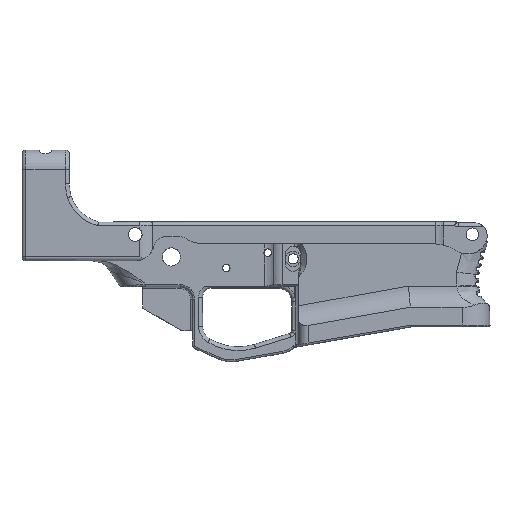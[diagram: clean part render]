
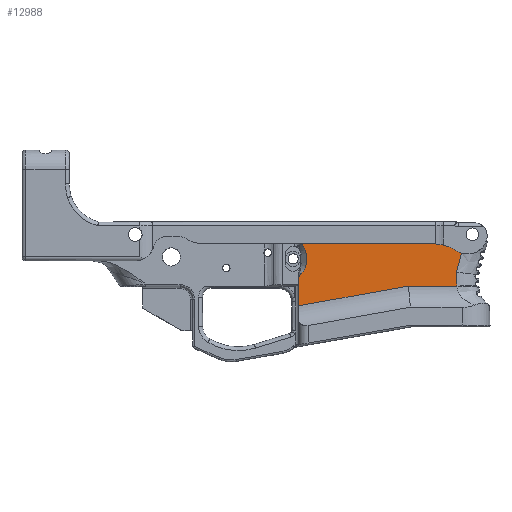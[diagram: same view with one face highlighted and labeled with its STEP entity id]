
A CAD part, front view. The second image highlights one B-rep face of the part: STEP entity #12988.
In plain terms, the highlighted planar face has unit normal (0, -1, 0).
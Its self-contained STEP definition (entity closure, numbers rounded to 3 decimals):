
#486=PLANE('',#14073);
#1259=FACE_OUTER_BOUND('',#2017,.T.);
#2017=EDGE_LOOP('',(#11764,#11765,#11766,#11767,#11768,#11769,#11770,#11771,
#11772,#11773,#11774,#11775,#11776,#11777));
#2245=B_SPLINE_CURVE_WITH_KNOTS('',3,(#22119,#22120,#22121,#22122,#22123,
#22124,#22125,#22126),.UNSPECIFIED.,.F.,.F.,(4,2,2,4),(0.,0.183,
0.306,0.416),.UNSPECIFIED.);
#2653=B_SPLINE_CURVE_WITH_KNOTS('',3,(#35249,#35250,#35251,#35252),
 .UNSPECIFIED.,.F.,.F.,(4,4),(0.925,1.949),
 .UNSPECIFIED.);
#2673=B_SPLINE_CURVE_WITH_KNOTS('',3,(#35752,#35753,#35754,#35755,#35756,
#35757,#35758,#35759,#35760,#35761,#35762,#35763,#35764,#35765,#35766,#35767,
#35768,#35769,#35770,#35771,#35772,#35773),.UNSPECIFIED.,.F.,.F.,(4,3,3,
3,3,3,3,4),(0.235,0.416,0.597,0.657,
0.838,1.02,1.2,1.314),
 .UNSPECIFIED.);
#2794=CIRCLE('',#13302,6.7);
#2795=CIRCLE('',#13305,6.7);
#3091=CIRCLE('',#14000,8.);
#3092=CIRCLE('',#14003,8.);
#3486=LINE('',#22367,#4305);
#3492=LINE('',#22397,#4311);
#3899=LINE('',#35215,#4718);
#3901=LINE('',#35306,#4720);
#3902=LINE('',#35309,#4721);
#3906=LINE('',#35340,#4725);
#3945=LINE('',#35775,#4764);
#4305=VECTOR('',#14986,10.);
#4311=VECTOR('',#15000,10.);
#4718=VECTOR('',#16803,10.);
#4720=VECTOR('',#16811,10.);
#4721=VECTOR('',#16814,13.);
#4725=VECTOR('',#16828,13.);
#4764=VECTOR('',#16993,10.);
#5261=VERTEX_POINT('',#22112);
#5262=VERTEX_POINT('',#22118);
#5281=VERTEX_POINT('',#22362);
#5282=VERTEX_POINT('',#22366);
#5289=VERTEX_POINT('',#22391);
#5290=VERTEX_POINT('',#22395);
#5891=VERTEX_POINT('',#31458);
#5973=VERTEX_POINT('',#35203);
#5974=VERTEX_POINT('',#35204);
#5975=VERTEX_POINT('',#35214);
#5976=VERTEX_POINT('',#35218);
#5977=VERTEX_POINT('',#35248);
#5978=VERTEX_POINT('',#35308);
#5984=VERTEX_POINT('',#35339);
#6664=EDGE_CURVE('',#5261,#5262,#2245,.T.);
#6689=EDGE_CURVE('',#5282,#5281,#3486,.T.);
#6698=EDGE_CURVE('',#5289,#5281,#2794,.T.);
#6700=EDGE_CURVE('',#5290,#5289,#3492,.T.);
#6702=EDGE_CURVE('',#5262,#5290,#2795,.T.);
#7869=EDGE_CURVE('',#5973,#5974,#3091,.T.);
#7872=EDGE_CURVE('',#5975,#5973,#3899,.T.);
#7874=EDGE_CURVE('',#5976,#5975,#3092,.T.);
#7876=EDGE_CURVE('',#5976,#5977,#2653,.T.);
#7878=EDGE_CURVE('',#5977,#5891,#3901,.T.);
#7879=EDGE_CURVE('',#5891,#5978,#3902,.T.);
#7887=EDGE_CURVE('',#5978,#5984,#3906,.T.);
#7971=EDGE_CURVE('',#5974,#5282,#2673,.T.);
#7972=EDGE_CURVE('',#5984,#5261,#3945,.T.);
#11764=ORIENTED_EDGE('',*,*,#6664,.F.);
#11765=ORIENTED_EDGE('',*,*,#7972,.F.);
#11766=ORIENTED_EDGE('',*,*,#7887,.F.);
#11767=ORIENTED_EDGE('',*,*,#7879,.F.);
#11768=ORIENTED_EDGE('',*,*,#7878,.F.);
#11769=ORIENTED_EDGE('',*,*,#7876,.F.);
#11770=ORIENTED_EDGE('',*,*,#7874,.T.);
#11771=ORIENTED_EDGE('',*,*,#7872,.T.);
#11772=ORIENTED_EDGE('',*,*,#7869,.T.);
#11773=ORIENTED_EDGE('',*,*,#7971,.T.);
#11774=ORIENTED_EDGE('',*,*,#6689,.T.);
#11775=ORIENTED_EDGE('',*,*,#6698,.F.);
#11776=ORIENTED_EDGE('',*,*,#6700,.F.);
#11777=ORIENTED_EDGE('',*,*,#6702,.F.);
#12988=ADVANCED_FACE('',(#1259),#486,.F.);
#13302=AXIS2_PLACEMENT_3D('',#22393,#14995,#14996);
#13305=AXIS2_PLACEMENT_3D('',#22400,#15004,#15005);
#14000=AXIS2_PLACEMENT_3D('',#35205,#16798,#16799);
#14003=AXIS2_PLACEMENT_3D('',#35219,#16807,#16808);
#14073=AXIS2_PLACEMENT_3D('',#35774,#16991,#16992);
#14986=DIRECTION('',(-1.,0.,0.));
#14995=DIRECTION('center_axis',(0.,-1.,0.));
#14996=DIRECTION('ref_axis',(0.,0.,
1.));
#15000=DIRECTION('',(0.,0.,1.));
#15004=DIRECTION('center_axis',(0.,-1.,0.));
#15005=DIRECTION('ref_axis',(1.,0.,0.));
#16798=DIRECTION('center_axis',(0.,-1.,0.));
#16799=DIRECTION('ref_axis',(0.995,0.,-0.105));
#16803=DIRECTION('',(-0.828,0.,0.56));
#16807=DIRECTION('center_axis',(0.,1.,0.));
#16808=DIRECTION('ref_axis',(-0.995,0.,0.105));
#16811=DIRECTION('',(0.034,0.,-0.999));
#16814=DIRECTION('',(-1.,0.,0.002));
#16828=DIRECTION('',(-0.984,0.,-0.177));
#16991=DIRECTION('center_axis',(0.,1.,0.));
#16992=DIRECTION('ref_axis',(0.,0.,
1.));
#16993=DIRECTION('',(0.,0.,1.));
#22112=CARTESIAN_POINT('',(27.507,-17.4,37.119));
#22118=CARTESIAN_POINT('',(29.188,-17.4,40.645));
#22119=CARTESIAN_POINT('Ctrl Pts',(27.507,-17.4,37.119));
#22120=CARTESIAN_POINT('Ctrl Pts',(27.507,-17.4,37.731));
#22121=CARTESIAN_POINT('Ctrl Pts',(27.615,-17.4,38.352));
#22122=CARTESIAN_POINT('Ctrl Pts',(27.976,-17.4,39.303));
#22123=CARTESIAN_POINT('Ctrl Pts',(28.174,-17.4,39.672));
#22124=CARTESIAN_POINT('Ctrl Pts',(28.654,-17.4,40.27));
#22125=CARTESIAN_POINT('Ctrl Pts',(28.91,-17.4,40.494));
#22126=CARTESIAN_POINT('Ctrl Pts',(29.188,-17.4,40.645));
#22362=CARTESIAN_POINT('',(28.48,-17.4,56.));
#22366=CARTESIAN_POINT('',(94.915,-17.4,56.));
#22367=CARTESIAN_POINT('',(118.,-17.4,56.));
#22391=CARTESIAN_POINT('',(31.421,-17.4,50.454));
#22393=CARTESIAN_POINT('Origin',(24.721,-17.4,50.454));
#22395=CARTESIAN_POINT('',(31.421,-17.4,45.639));
#22397=CARTESIAN_POINT('',(31.421,-17.4,34.629));
#22400=CARTESIAN_POINT('Origin',(24.721,-17.4,45.639));
#31458=CARTESIAN_POINT('',(109.603,-17.4,33.864));
#35203=CARTESIAN_POINT('',(108.236,-17.4,53.046));
#35204=CARTESIAN_POINT('',(105.505,-17.4,54.226));
#35205=CARTESIAN_POINT('Origin',(103.752,-17.4,46.421));
#35214=CARTESIAN_POINT('',(109.698,-17.4,52.057));
#35215=CARTESIAN_POINT('',(109.976,-17.4,51.869));
#35218=CARTESIAN_POINT('',(111.989,-17.4,50.988));
#35219=CARTESIAN_POINT('Origin',(114.182,-17.4,58.682));
#35248=CARTESIAN_POINT('',(109.357,-17.4,41.1));
#35249=CARTESIAN_POINT('Ctrl Pts',(111.989,-17.4,50.988));
#35250=CARTESIAN_POINT('Ctrl Pts',(111.111,-17.4,47.692));
#35251=CARTESIAN_POINT('Ctrl Pts',(110.234,-17.4,44.396));
#35252=CARTESIAN_POINT('Ctrl Pts',(109.357,-17.4,41.1));
#35306=CARTESIAN_POINT('',(110.251,-17.4,14.837));
#35308=CARTESIAN_POINT('',(84.532,-17.4,33.903));
#35309=CARTESIAN_POINT('',(98.181,-17.4,33.882));
#35339=CARTESIAN_POINT('',(27.507,-17.4,23.649));
#35340=CARTESIAN_POINT('',(80.715,-17.4,33.216));
#35752=CARTESIAN_POINT('Ctrl Pts',(105.505,-17.4,54.226));
#35753=CARTESIAN_POINT('Ctrl Pts',(104.935,-17.4,54.423));
#35754=CARTESIAN_POINT('Ctrl Pts',(104.36,-17.4,54.603));
#35755=CARTESIAN_POINT('Ctrl Pts',(103.78,-17.4,54.767));
#35756=CARTESIAN_POINT('Ctrl Pts',(103.199,-17.4,54.932));
#35757=CARTESIAN_POINT('Ctrl Pts',(102.613,-17.4,55.08));
#35758=CARTESIAN_POINT('Ctrl Pts',(102.024,-17.4,55.212));
#35759=CARTESIAN_POINT('Ctrl Pts',(101.828,-17.4,55.256));
#35760=CARTESIAN_POINT('Ctrl Pts',(101.633,-17.4,55.298));
#35761=CARTESIAN_POINT('Ctrl Pts',(101.436,-17.4,55.338));
#35762=CARTESIAN_POINT('Ctrl Pts',(100.844,-17.4,55.459));
#35763=CARTESIAN_POINT('Ctrl Pts',(100.249,-17.4,55.564));
#35764=CARTESIAN_POINT('Ctrl Pts',(99.652,-17.4,55.652));
#35765=CARTESIAN_POINT('Ctrl Pts',(99.054,-17.4,55.74));
#35766=CARTESIAN_POINT('Ctrl Pts',(98.455,-17.4,55.811));
#35767=CARTESIAN_POINT('Ctrl Pts',(97.853,-17.4,55.866));
#35768=CARTESIAN_POINT('Ctrl Pts',(97.255,-17.4,55.921));
#35769=CARTESIAN_POINT('Ctrl Pts',(96.655,-17.4,55.959));
#35770=CARTESIAN_POINT('Ctrl Pts',(96.054,-17.4,55.98));
#35771=CARTESIAN_POINT('Ctrl Pts',(95.675,-17.4,55.993));
#35772=CARTESIAN_POINT('Ctrl Pts',(95.295,-17.4,56.));
#35773=CARTESIAN_POINT('Ctrl Pts',(94.915,-17.4,56.));
#35774=CARTESIAN_POINT('Origin',(88.,-17.4,18.804));
#35775=CARTESIAN_POINT('',(27.507,-17.4,5.83));
